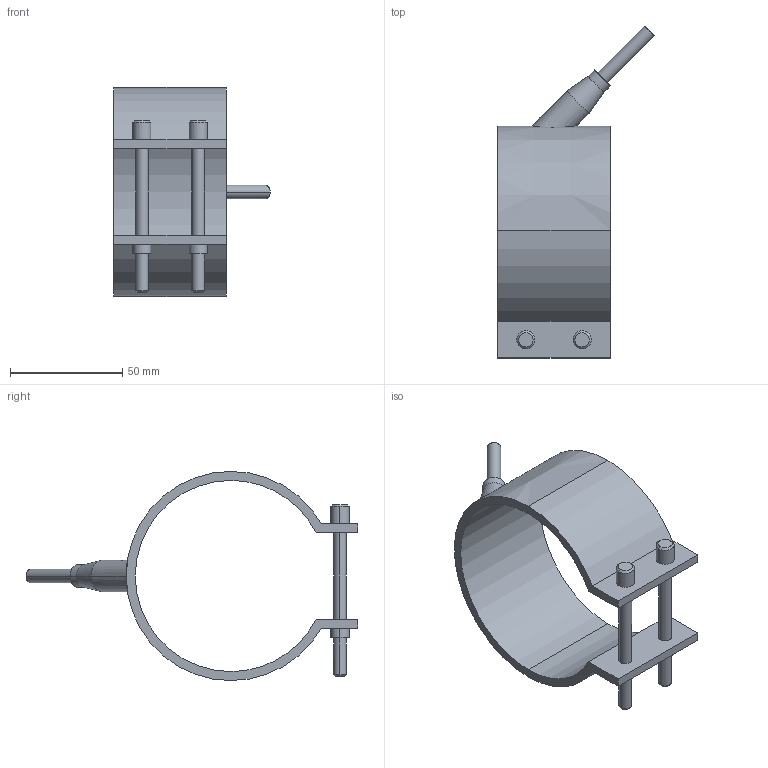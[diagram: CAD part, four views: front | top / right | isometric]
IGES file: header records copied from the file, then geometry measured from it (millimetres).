
Start section: START RECORD GO HERE.
Global section: file name: 29085050.igs; native system: DASSAULT SYSTEMES CATIA V5 R20 - www.3ds.com; preprocessor: CATIA Version 5 Release 20 ; author: Utente; organization: NB04-ASUS; date: 20210329.200322; units: millimetre
Bounding box: 69.55 x 147.55 x 93 mm (x, y, z)
Surface area: 33713.7 mm2 (no closed solid volume)
Topology: 0 solids, 0 shells, 54 faces, 246 edges, 246 vertices
Faces by surface type: revolution 38, plane 16
